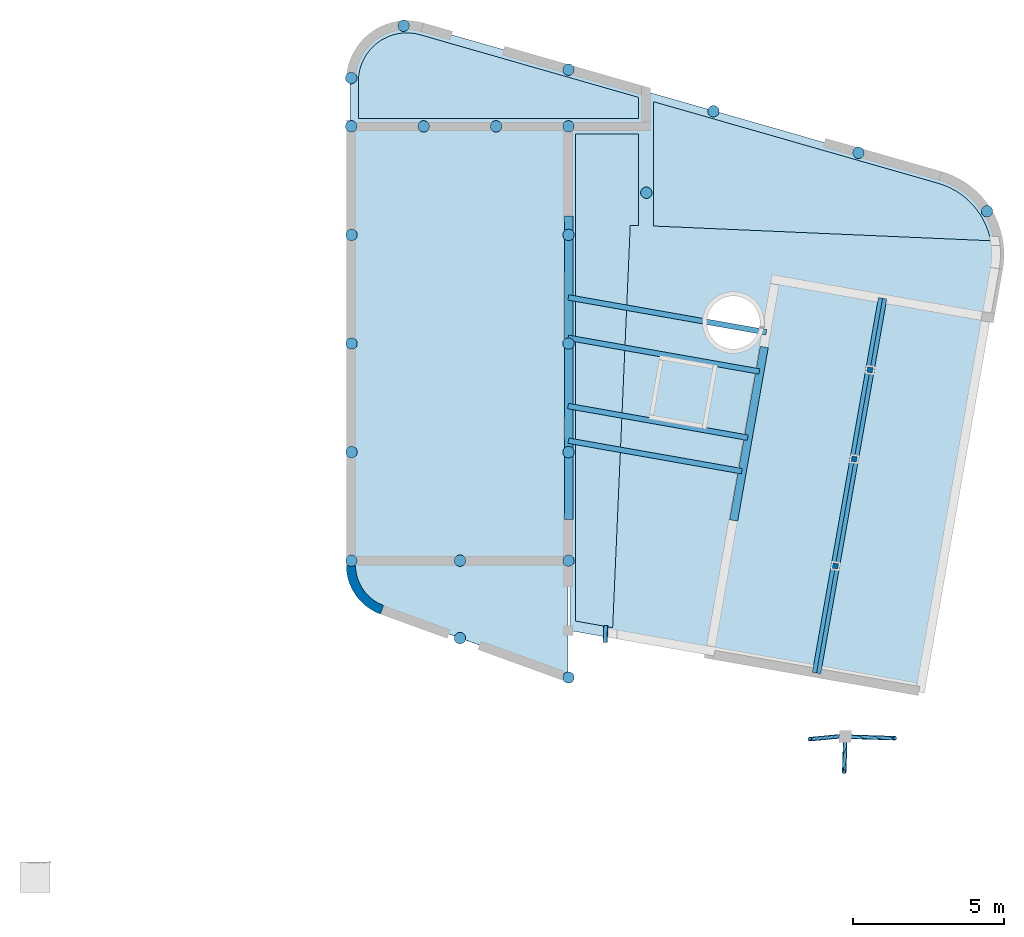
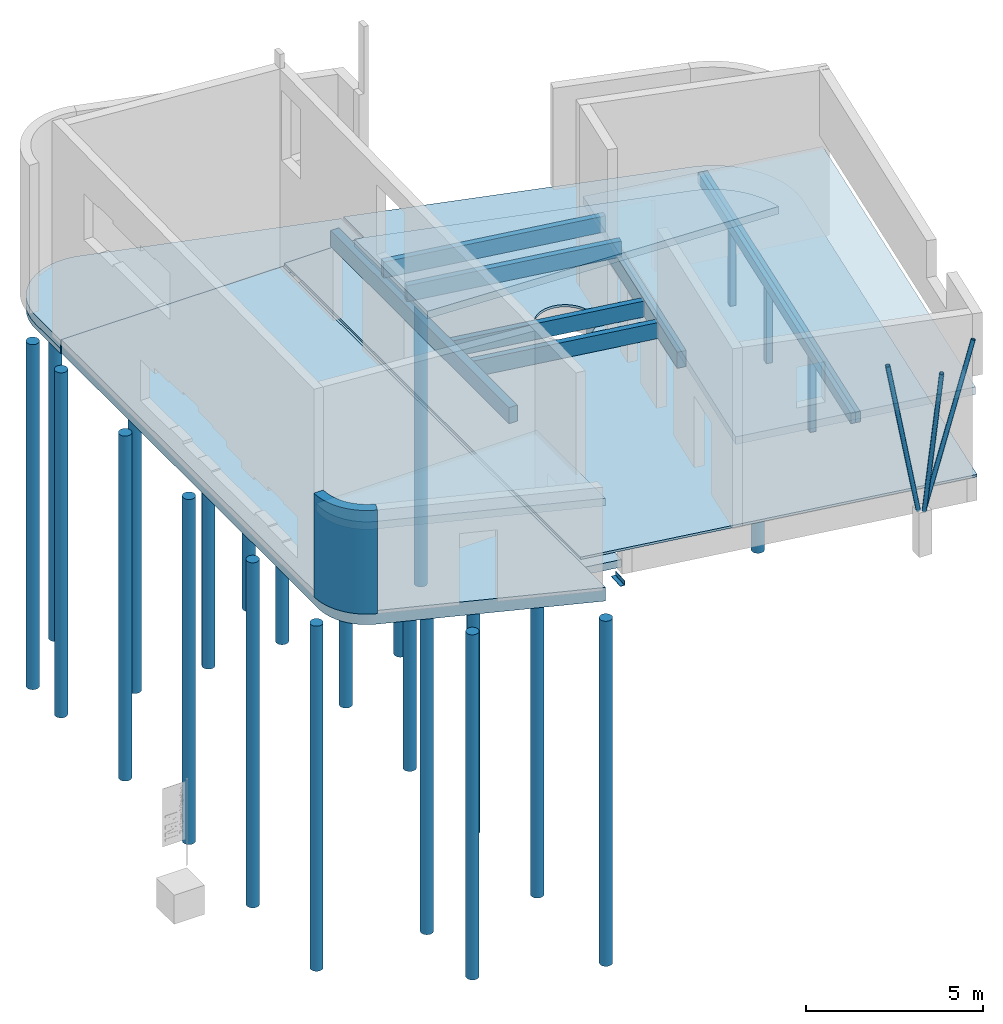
# One storey, part 1 of 3: 22 piles, 12 beams, 8 slabs, 3 columns, 1 wall, 1 opening.
"""IFC2X3 building model written with IfcOpenShell, lengths in millimetres."""

import ifcopenshell
import ifcopenshell.guid

model = None  # the IFC model being written
_history = None  # IfcOwnerHistory: only IFC2X3 demands one
_inside = {}  # id of a spatial element -> (the spatial element, [elements in it])
_under = {}  # id of a project, library or spatial element -> (it, [spatial elements below it])
_declared = {}  # id of a project -> (the project, [libraries it declares])
_typed = {}  # id of a type object -> (the type object, [elements of that type])
_made_of = {}  # id of a material, layer set ... -> (it, [elements and type objects made of it])


def new_model(schema):
    """Start an empty IFC model of exactly this schema.

    Asked for "IFC4X3", IfcOpenShell would pick the latest addendum, in which some entities
    have other attributes; the version numbers below select the first issue.
    IFC2X3 requires an IfcOwnerHistory on every rooted entity: one is made here for all.
    """
    global model, _history
    if schema == "IFC4X3":
        model = ifcopenshell.file(schema_version=(4, 3, 0, 0))
    else:
        model = ifcopenshell.file(schema=schema)
    _inside.clear()
    _under.clear()
    _declared.clear()
    _typed.clear()
    _made_of.clear()
    _history = None
    if model.schema == "IFC2X3":
        org = make("IfcOrganization", Name="unknown")
        user = make(
            "IfcPersonAndOrganization",
            ThePerson=make("IfcPerson", FamilyName="unknown"),
            TheOrganization=org,
        )
        app = make(
            "IfcApplication",
            ApplicationDeveloper=org,
            Version="unknown",
            ApplicationFullName="unknown",
            ApplicationIdentifier="unknown",
        )
        _history = make(
            "IfcOwnerHistory",
            OwningUser=user,
            OwningApplication=app,
            ChangeAction="ADDED",
            CreationDate=0,
        )
    return model


def make(cls, **values):
    """One entity of the class cls with the attributes given. An attribute that is None is left unset."""
    return model.create_entity(
        cls, **{name: value for name, value in values.items() if value is not None}
    )


def entity(cls, *values):
    """Any entity or typed value of the class cls, its attributes in the order of the schema. None: left unset."""
    e = model.create_entity(cls)
    for i, value in enumerate(values):
        if value is not None:
            e[i] = value
    return e


def rooted(cls, **values):
    """An entity with a GlobalId (a new one), such as an element, a storey or a relation."""
    return make(cls, GlobalId=ifcopenshell.guid.new(), OwnerHistory=_history, **values)


def si_unit(unit_type, name, prefix=None):
    """IfcSIUnit, for example si_unit("LENGTHUNIT", "METRE", prefix="MILLI")."""
    return make("IfcSIUnit", UnitType=unit_type, Prefix=prefix, Name=name)


def converted_unit(unit_type, name, factor, base, dimensions=None, offset=None):
    """IfcConversionBasedUnit, such as the inch: factor (a typed value) times the base unit."""
    return make(
        "IfcConversionBasedUnit"
        if offset is None
        else "IfcConversionBasedUnitWithOffset",
        ConversionOffset=offset,
        Dimensions=None
        if dimensions is None
        else entity("IfcDimensionalExponents", *dimensions),
        UnitType=unit_type,
        Name=name,
        ConversionFactor=make(
            "IfcMeasureWithUnit", ValueComponent=factor, UnitComponent=base
        ),
    )


def derived_unit(unit_type, elements):
    """IfcDerivedUnit: a product of units, each with its exponent."""
    return make(
        "IfcDerivedUnit",
        Elements=[
            make("IfcDerivedUnitElement", Unit=unit, Exponent=power)
            for unit, power in elements
        ],
        UnitType=unit_type,
    )


def assignment(units):
    """IfcUnitAssignment: the units of a project."""
    return None if units is None else make("IfcUnitAssignment", Units=units)


def point(xyz):
    """IfcCartesianPoint."""
    return None if xyz is None else make("IfcCartesianPoint", Coordinates=xyz)


def direction(xyz):
    """IfcDirection."""
    return None if xyz is None else make("IfcDirection", DirectionRatios=xyz)


def frame(location, z_axis=None, x_axis=None):
    """IfcAxis2Placement3D, a coordinate frame: its origin and axes. An axis left out is left unset."""
    return make(
        "IfcAxis2Placement3D",
        Location=point(location),
        Axis=direction(z_axis),
        RefDirection=direction(x_axis),
    )


def frame_2d(location, x_axis=None):
    """IfcAxis2Placement2D, a coordinate frame in the plane: its origin and x axis."""
    return make(
        "IfcAxis2Placement2D", Location=point(location), RefDirection=direction(x_axis)
    )


def origin():
    """The frame at (0, 0, 0) with its axes left unset."""
    return frame((0.0, 0.0, 0.0))


def origin_2d_with_axis():
    """The frame at (0, 0) in the plane with the x axis (1, 0) written out."""
    return frame_2d((0.0, 0.0), x_axis=(1.0, 0.0))


def place(relative_to, where):
    """IfcLocalPlacement: puts the frame where relative to a parent placement (None: the world)."""
    return make(
        "IfcLocalPlacement", PlacementRelTo=relative_to, RelativePlacement=where
    )


def context(
    kind, dimensions, precision=None, world=None, true_north=None, identifier=None
):
    """IfcGeometricRepresentationContext, for example the 3D "Model" context."""
    return make(
        "IfcGeometricRepresentationContext",
        ContextIdentifier=identifier,
        ContextType=kind,
        CoordinateSpaceDimension=dimensions,
        Precision=precision,
        WorldCoordinateSystem=world,
        TrueNorth=true_north,
    )


def subcontext(parent, identifier, kind, view, scale=None):
    """IfcGeometricRepresentationSubContext, for example "Body" below "Model"."""
    return make(
        "IfcGeometricRepresentationSubContext",
        ContextIdentifier=identifier,
        ContextType=kind,
        ParentContext=parent,
        TargetScale=scale,
        TargetView=view,
    )


def project(units=None, contexts=None):
    """IfcProject with its units and contexts."""
    return rooted(
        "IfcProject",
        Name="project",
        RepresentationContexts=contexts,
        UnitsInContext=assignment(units),
    )


def spatial(cls, under=None, at=None, **own):
    """A site, building, storey or space (cls), placed at a placement, below another one or the project."""
    s = rooted(cls, ObjectPlacement=at, **own)
    if under is not None:
        _under.setdefault(under.id(), (under, []))[1].append(s)
    return s


def polyline(points):
    """IfcPolyline through the points."""
    return make("IfcPolyline", Points=[point(p) for p in points])


def circle_curve(where, radius):
    """IfcCircle in the frame where."""
    return make("IfcCircle", Position=where, Radius=radius)


def parameter(value):
    """IfcParameterValue: where a trimmed curve begins or ends, as a parameter of its basis curve."""
    return model.create_entity("IfcParameterValue", value)


def trimmed(basis, trim1, trim2, sense, master):
    """IfcTrimmedCurve: the piece of a basis curve between two trims."""
    return make(
        "IfcTrimmedCurve",
        BasisCurve=basis,
        Trim1=trim1,
        Trim2=trim2,
        SenseAgreement=sense,
        MasterRepresentation=master,
    )


def segment(curve, same_sense, transition):
    """IfcCompositeCurveSegment."""
    return make(
        "IfcCompositeCurveSegment",
        Transition=transition,
        SameSense=same_sense,
        ParentCurve=curve,
    )


def composite_curve(segments, self_intersect=None):
    """IfcCompositeCurve: segments joined end to end."""
    return make("IfcCompositeCurve", Segments=segments, SelfIntersect=self_intersect)


def profile(cls, at=None, kind="AREA", **sizes):
    """A parametric profile (cls). Its sizes go by their IFC names, for example OverallWidth=200.0."""
    return make(cls, ProfileType=kind, Position=at, **sizes)


def rectangle(**sizes):
    """IfcRectangleProfileDef."""
    return profile("IfcRectangleProfileDef", **sizes)


def circle(**sizes):
    """IfcCircleProfileDef."""
    return profile("IfcCircleProfileDef", **sizes)


def hollow_circle(**sizes):
    """IfcCircleHollowProfileDef."""
    return profile("IfcCircleHollowProfileDef", **sizes)


def outline(outer, holes=None, kind="AREA"):
    """IfcArbitraryClosedProfileDef: a profile drawn as a closed curve; with holes, ...WithVoids."""
    if holes is None:
        return make("IfcArbitraryClosedProfileDef", ProfileType=kind, OuterCurve=outer)
    return make(
        "IfcArbitraryProfileDefWithVoids",
        ProfileType=kind,
        OuterCurve=outer,
        InnerCurves=holes,
    )


def extrude(swept, where, along, depth):
    """IfcExtrudedAreaSolid: the profile swept, set in the frame where, extruded along a direction by depth."""
    return make(
        "IfcExtrudedAreaSolid",
        SweptArea=swept,
        Position=where,
        ExtrudedDirection=direction(along),
        Depth=depth,
    )


def shape(context_of_items, identifier, shape_type, items):
    """IfcShapeRepresentation: the items that make up one representation, for example the "Body"."""
    return make(
        "IfcShapeRepresentation",
        ContextOfItems=context_of_items,
        RepresentationIdentifier=identifier,
        RepresentationType=shape_type,
        Items=items,
    )


def source(mapping_origin, context_of_items, identifier, shape_type, items):
    """IfcRepresentationMap: a shape defined once, which mapped items show again and again."""
    return make(
        "IfcRepresentationMap",
        MappingOrigin=mapping_origin,
        MappedRepresentation=shape(context_of_items, identifier, shape_type, items),
    )


def transform(
    local_origin,
    x_axis=None,
    y_axis=None,
    z_axis=None,
    scale=None,
    scale2=None,
    scale3=None,
    uniform=True,
):
    """IfcCartesianTransformationOperator3D, or its non-uniform kind. x_axis, y_axis, z_axis: its Axis1, 2, 3."""
    if uniform:
        return make(
            "IfcCartesianTransformationOperator3D",
            Axis1=direction(x_axis),
            Axis2=direction(y_axis),
            LocalOrigin=point(local_origin),
            Scale=scale,
            Axis3=direction(z_axis),
        )
    return make(
        "IfcCartesianTransformationOperator3DnonUniform",
        Axis1=direction(x_axis),
        Axis2=direction(y_axis),
        LocalOrigin=point(local_origin),
        Scale=scale,
        Axis3=direction(z_axis),
        Scale2=scale2,
        Scale3=scale3,
    )


def mapped(mapping_source, mapping_target):
    """IfcMappedItem: shows the shape of a source again, moved by a transform."""
    return make(
        "IfcMappedItem", MappingSource=mapping_source, MappingTarget=mapping_target
    )


def material(Name=None, Category=None):
    """IfcMaterial."""
    return make("IfcMaterial", Name=Name, Category=Category)


def material_list(materials):
    """IfcMaterialList."""
    return make("IfcMaterialList", Materials=materials)


def layer(
    of_material, thickness, ventilated=None, Name=None, Category=None, Priority=None
):
    """IfcMaterialLayer: one layer of a wall or slab, of a material (None: an air gap)."""
    return make(
        "IfcMaterialLayer",
        Material=of_material,
        LayerThickness=thickness,
        IsVentilated=ventilated,
        Name=Name,
        Category=Category,
        Priority=Priority,
    )


def layer_set(layers, Name=None):
    """IfcMaterialLayerSet."""
    return make("IfcMaterialLayerSet", MaterialLayers=layers, LayerSetName=Name)


def layer_usage(for_layer_set, set_direction, sense, offset, extent=None):
    """IfcMaterialLayerSetUsage: how a layer set lies in its element."""
    return make(
        "IfcMaterialLayerSetUsage",
        ForLayerSet=for_layer_set,
        LayerSetDirection=set_direction,
        DirectionSense=sense,
        OffsetFromReferenceLine=offset,
        ReferenceExtent=extent,
    )


def made_of(thing, what):
    """Note that an element or type object is made of a material, layer set ...; save() writes the relation."""
    if what is not None:
        _made_of.setdefault(what.id(), (what, []))[1].append(thing)
    return thing


def type_object(cls, material=None, **own):
    """A type object (cls), such as IfcWallType, which elements share."""
    return made_of(rooted(cls, **own), material)


def type_shapes(of_type, sources):
    """Give a type object the sources (RepresentationMaps) that its elements show as mapped items."""
    of_type.RepresentationMaps = sources


def element(
    cls,
    number,
    at=None,
    inside=None,
    cuts=None,
    type_object=None,
    material=None,
    context=None,
    identifier="Body",
    shape_type=None,
    held_by="IfcProductDefinitionShape",
    body=None,
    shapes=None,
    **own,
):
    """One element of the class cls, such as IfcWall. Its Tag is "e" and its number.

    at: its placement. inside: the storey or other place that contains it. cuts: it is an
    opening in that element (IfcRelVoidsElement). A single representation is given by context,
    identifier, shape_type and body (its items); several are given by shapes. held_by: the class
    of the entity that holds the representations. save() writes the other relations.
    """
    e = rooted(cls, Tag="e%d" % number, ObjectPlacement=at, **own)
    if body is not None:
        shapes = [shape(context, identifier, shape_type, body)]
    if shapes is not None:
        e.Representation = make(held_by, Representations=shapes)
    if inside is not None:
        _inside.setdefault(inside.id(), (inside, []))[1].append(e)
    if cuts is not None:
        rooted(
            "IfcRelVoidsElement", RelatingBuildingElement=cuts, RelatedOpeningElement=e
        )
    if type_object is not None:
        _typed.setdefault(type_object.id(), (type_object, []))[1].append(e)
    return made_of(e, material)


def aggregate(whole, parts):
    """IfcRelAggregates: a whole, such as a stair, and the parts it consists of."""
    return rooted("IfcRelAggregates", RelatingObject=whole, RelatedObjects=parts)


def save(model, path):
    """Write the relations noted so far, then the file.

    IfcRelAggregates (storeys below a building ...), IfcRelContainedInSpatialStructure (elements
    in a storey), IfcRelDefinesByType, IfcRelAssociatesMaterial and IfcRelDeclares: one each for
    every whole, place, type object, material and project.
    """
    for whole, parts in _under.values():
        aggregate(whole, parts)
    for where, things in _inside.values():
        rooted(
            "IfcRelContainedInSpatialStructure",
            RelatedElements=things,
            RelatingStructure=where,
        )
    for kind, things in _typed.values():
        rooted("IfcRelDefinesByType", RelatedObjects=things, RelatingType=kind)
    for what, things in _made_of.values():
        rooted("IfcRelAssociatesMaterial", RelatedObjects=things, RelatingMaterial=what)
    for by, libraries in _declared.values():
        rooted("IfcRelDeclares", RelatingContext=by, RelatedDefinitions=libraries)
    model.write(path)


model = new_model("IFC2X3")

# Units and contexts
model_context = context("Model", 3, precision=0.01, world=origin(), true_north=direction((6.12303176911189e-17, 1.0)))
context_of_model = context(None, 3, precision=0.01, world=origin(), true_north=direction((6.12303176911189e-17, 1.0)))
body_context = subcontext(model_context, "Body", "Model", "MODEL_VIEW")
ifc_project = project(units=[si_unit("LENGTHUNIT", "METRE", prefix="MILLI"), si_unit("AREAUNIT", "SQUARE_METRE"), si_unit("VOLUMEUNIT", "CUBIC_METRE"), converted_unit("PLANEANGLEUNIT", "DEGREE", entity("IfcRatioMeasure", 0.0174532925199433), si_unit("PLANEANGLEUNIT", "RADIAN"), dimensions=[0, 0, 0, 0, 0, 0, 0]), si_unit("MASSUNIT", "GRAM", prefix="KILO"), derived_unit("MASSDENSITYUNIT", [(si_unit("MASSUNIT", "GRAM", prefix="KILO"), 1), (si_unit("LENGTHUNIT", "METRE"), -3)]), derived_unit("MOMENTOFINERTIAUNIT", [(si_unit("LENGTHUNIT", "METRE"), 4)]), si_unit("TIMEUNIT", "SECOND"), si_unit("FREQUENCYUNIT", "HERTZ"), si_unit("THERMODYNAMICTEMPERATUREUNIT", "DEGREE_CELSIUS"), derived_unit("THERMALTRANSMITTANCEUNIT", [(si_unit("MASSUNIT", "GRAM", prefix="KILO"), 1), (si_unit("THERMODYNAMICTEMPERATUREUNIT", "KELVIN"), -1), (si_unit("TIMEUNIT", "SECOND"), -3)]), derived_unit("VOLUMETRICFLOWRATEUNIT", [(si_unit("LENGTHUNIT", "METRE"), 3), (si_unit("TIMEUNIT", "SECOND"), -1)]), si_unit("ELECTRICCURRENTUNIT", "AMPERE"), si_unit("ELECTRICVOLTAGEUNIT", "VOLT"), si_unit("POWERUNIT", "WATT"), si_unit("FORCEUNIT", "NEWTON", prefix="KILO"), si_unit("ILLUMINANCEUNIT", "LUX"), si_unit("LUMINOUSFLUXUNIT", "LUMEN"), si_unit("LUMINOUSINTENSITYUNIT", "CANDELA"), derived_unit("USERDEFINED", [(si_unit("MASSUNIT", "GRAM", prefix="KILO"), -1), (si_unit("LENGTHUNIT", "METRE"), -2), (si_unit("TIMEUNIT", "SECOND"), 3), (si_unit("LUMINOUSFLUXUNIT", "LUMEN"), 1)]), derived_unit("LINEARVELOCITYUNIT", [(si_unit("LENGTHUNIT", "METRE"), 1), (si_unit("TIMEUNIT", "SECOND"), -1)]), si_unit("PRESSUREUNIT", "PASCAL"), derived_unit("USERDEFINED", [(si_unit("LENGTHUNIT", "METRE"), -2), (si_unit("MASSUNIT", "GRAM", prefix="KILO"), 1), (si_unit("TIMEUNIT", "SECOND"), -2)]), derived_unit("LINEARFORCEUNIT", [(si_unit("MASSUNIT", "GRAM", prefix="KILO"), 1), (si_unit("LENGTHUNIT", "METRE"), 1), (si_unit("TIMEUNIT", "SECOND"), -2), (si_unit("LENGTHUNIT", "METRE"), -1)]), derived_unit("PLANARFORCEUNIT", [(si_unit("MASSUNIT", "GRAM", prefix="KILO"), 1), (si_unit("LENGTHUNIT", "METRE"), 1), (si_unit("TIMEUNIT", "SECOND"), -2), (si_unit("LENGTHUNIT", "METRE"), -2)])], contexts=[model_context, context_of_model])

# Site, building, storey
site_placement = place(None, origin())
site = spatial("IfcSite", under=ifc_project, at=site_placement, Name="Default", CompositionType="ELEMENT")
building_placement = place(site_placement, origin())
building = spatial("IfcBuilding", under=site, at=building_placement, Name="IFc", CompositionType="ELEMENT")
storey_placement = place(building_placement, frame((0.0, 0.0, -70.0)))
storey = spatial("IfcBuildingStorey", under=building, at=storey_placement, Name="00 begane grond b.k. ruwe vloer", CompositionType="ELEMENT", Elevation=-70.0)

# Piles
ifc_material_1 = material(Name="IMd_beton_IHWG")
shared_shape_1 = source(origin(), body_context, "Body", "SweptSolid", [
    extrude(circle(Radius=190.0, at=frame_2d((3.25983355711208e-29, -2.85239492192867e-13), x_axis=(1.0, 0.0))), frame((0.0, 0.0, -13000.0), z_axis=(0.0, 0.0, 1.0), x_axis=(-1.0, 0.0, 0.0)), (0.0, 0.0, 1.0), 11889.9999999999),
])
for number, where in (
    (1, (9984.0, 24397.0, 70.0)),
    (2, (17187.0, 24397.0, 70.0)),
    (3, (17187.0, 26276.860835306, 70.0)),
    (4, (17187.0, 9997.0, 70.0)),
    (5, (9993.0, 9997.0, 70.0)),
    (6, (13590.0, 9997.0, 70.0)),
    (7, (17187.0, 6122.47168214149, 70.0)),
    (8, (19768.6696056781, 22197.0, 70.0)),
    (9, (31063.5922916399, 21580.8594844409, 70.0)),
    (10, (21993.3084796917, 24898.6740562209, 70.0)),
    (11, (26799.6169593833, 23520.4872771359, 70.0)),
    (12, (12385.0, 24397.0, 70.0)),
    (13, (14786.0, 24397.0, 70.0)),
    (14, (13590.0, 7428.04132245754, 70.0)),
    (15, (9984.0, 25998.7181915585, 70.0)),
    (16, (11719.4566353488, 27734.1748269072, 70.0)),
    (17, (17187.0, 13597.0, 70.0)),
    (18, (9993.0, 13597.0, 70.0)),
    (19, (17187.0, 17197.0, 70.0)),
    (20, (9993.0, 17197.0, 70.0)),
    (21, (17187.0, 20797.0, 70.0)),
    (22, (9993.0, 20797.0, 70.0)),
):
    element("IfcPile", number, at=place(storey_placement, frame(where)), inside=storey, material=ifc_material_1, Name="NLRS_17_SFO_TLB_funderingspaal rond_gen_ISR:Type 01_ø380/450_Fd=900kN", ObjectType="NLRS_17_SFO_TLB_funderingspaal rond_gen_ISR:Type 01_ø380/450_Fd=900kN", PredefinedType="NOTDEFINED", context=body_context, shape_type="MappedRepresentation", body=[
        mapped(shared_shape_1, transform((0.0, 0.0, 0.0), scale=1.0)),
    ])

# Columns
ifc_material_2 = material(Name="ISR_Hout")
ifc_material_3 = material(Name="<Unnamed>")
ifc_material_list = material_list([ifc_material_3, ifc_material_2])
column_type = type_object("IfcColumnType", Name="NLRS_28_SC_TLB_kolom vierkant hout_generiek_ISR:180x180 (GL)", PredefinedType="COLUMN", material=ifc_material_list)
shared_shape_2 = source(origin(), body_context, "Body", "SweptSolid", [
    extrude(rectangle(XDim=180.0, YDim=180.0, at=origin_2d_with_axis()), frame((0.0, 0.0, 0.0), z_axis=(0.0, 0.0, 1.0), x_axis=(0.0, -1.0, 0.0)), (0.0, 0.0, 1.0), 2632.00000000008),
])
type_shapes(column_type, [shared_shape_2])
for number, where, z_axis, x_axis, name in (
    (23, (26036.8769212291, 9820.45763454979, 70.0), (0.0, 0.0, 1.0), (0.984807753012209, -0.173648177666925, 0.0), "NLRS_28_SC_TLB_kolom vierkant hout_generiek_ISR:180x180 (GL)"),
    (24, (26662.0103603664, 13365.7655427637, 70.0), (0.0, 0.0, 1.0), (0.984807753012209, -0.173648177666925, 0.0), "NLRS_28_SC_TLB_kolom vierkant hout_generiek_ISR:180x180 (GL)"),
    (25, (27182.9548933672, 16320.1888018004, 70.0), (0.0, 0.0, 1.0), (0.984807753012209, -0.173648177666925, 0.0), "NLRS_28_SC_TLB_kolom vierkant hout_generiek_ISR:180x180 (GL)"),
):
    element("IfcColumn", number, at=place(storey_placement, frame(where, z_axis=z_axis, x_axis=x_axis)), inside=storey, type_object=column_type, material=ifc_material_2, Name=name, ObjectType="NLRS_28_SC_TLB_kolom vierkant hout_generiek_ISR:180x180 (GL)", context=body_context, shape_type="MappedRepresentation", body=[
        mapped(shared_shape_2, transform((0.0, 0.0, 0.0), scale=1.0)),
    ])

# Beams
ifc_material_4 = material(Name="IMd_hout")
beam_type_1 = type_object("IfcBeamType", Name="NLRS_28_SF_LIB_balk hout gelamineerd_generiek_ISR:HB 180x550", PredefinedType="NOTDEFINED")
beam_1_placement = place(storey_placement, frame((17178.0, 15123.5488943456, 3070.0), z_axis=(0.0, 0.0, 1.0), x_axis=(0.984807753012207, -0.173648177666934, 0.0)))
element("IfcBeam", 26, at=beam_1_placement, inside=storey, type_object=beam_type_1, material=ifc_material_4, Name="NLRS_28_SF_LIB_balk hout gelamineerd_generiek_ISR:HB 180x550", ObjectType="NLRS_28_SF_LIB_balk hout gelamineerd_generiek_ISR:HB 180x550", context=body_context, shape_type="SweptSolid", body=[
    extrude(rectangle(XDim=550.0, YDim=179.999999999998, at=frame_2d((2.55795384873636e-13, 0.0), x_axis=(1.0, 0.0))), frame((-6.7245769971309, 0.0, -295.0), z_axis=(1.0, 0.0, 0.0), x_axis=(0.0, 0.0, -1.0)), (0.0, 0.0, 1.0), 6048.88738526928),
])
beam_2_placement = place(storey_placement, frame((17178.0, 13976.9142265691, 3070.0), z_axis=(0.0, 0.0, 1.0), x_axis=(0.984807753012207, -0.173648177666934, 0.0)))
element("IfcBeam", 27, at=beam_2_placement, inside=storey, type_object=beam_type_1, material=ifc_material_4, Name="NLRS_28_SF_LIB_balk hout gelamineerd_generiek_ISR:HB 180x550", ObjectType="NLRS_28_SF_LIB_balk hout gelamineerd_generiek_ISR:HB 180x550", context=body_context, shape_type="SweptSolid", body=[
    extrude(rectangle(XDim=550.0, YDim=179.999999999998, at=frame_2d((2.55795384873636e-13, 0.0), x_axis=(1.0, 0.0))), frame((7.133167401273, 0.0, -295.0), z_axis=(1.0, 0.0, 0.0), x_axis=(0.0, 0.0, -1.0)), (0.0, 0.0, 1.0), 5835.91862036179),
])
beam_3_placement = place(storey_placement, frame((17178.0, 18726.0679760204, 3070.0), z_axis=(0.0, 0.0, 1.0), x_axis=(0.984807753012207, -0.173648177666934, 0.0)))
element("IfcBeam", 28, at=beam_3_placement, inside=storey, type_object=beam_type_1, material=ifc_material_4, Name="NLRS_28_SF_LIB_balk hout gelamineerd_generiek_ISR:HB 180x550", ObjectType="NLRS_28_SF_LIB_balk hout gelamineerd_generiek_ISR:HB 180x550", context=body_context, shape_type="SweptSolid", body=[
    extrude(rectangle(XDim=550.0, YDim=179.999999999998, at=frame_2d((2.55795384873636e-13, 0.0), x_axis=(1.0, 0.0))), frame((4.22572315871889, 0.0, 275.0), z_axis=(1.0, 0.0, 0.0), x_axis=(0.0, 0.0, -1.0)), (0.0, 0.0, 1.0), 6666.50795865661),
])
beam_4_placement = place(storey_placement, frame((17178.0, 17386.6706193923, 3070.0), z_axis=(0.0, 0.0, 1.0), x_axis=(0.984807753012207, -0.173648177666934, 0.0)))
element("IfcBeam", 29, at=beam_4_placement, inside=storey, type_object=beam_type_1, material=ifc_material_4, Name="NLRS_28_SF_LIB_balk hout gelamineerd_generiek_ISR:HB 180x550", ObjectType="NLRS_28_SF_LIB_balk hout gelamineerd_generiek_ISR:HB 180x550", context=body_context, shape_type="SweptSolid", body=[
    extrude(rectangle(XDim=550.0, YDim=180.0, at=frame_2d((2.55795384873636e-13, -1.06581410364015e-12), x_axis=(1.0, 0.0))), frame((-3.02019640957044, 0.0, 275.0), z_axis=(1.0, 0.0, 0.0), x_axis=(0.0, 0.0, -1.0)), (0.0, 0.0, 1.0), 6438.16996807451),
])
beam_type_2 = type_object("IfcBeamType", Name="NLRS_28_SF_LIB_balk hout gelamineerd_generiek_ISR:HB 140x350", PredefinedType="NOTDEFINED")
beam_5_placement = place(storey_placement, frame((27531.2949215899, 18698.8372047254, 3070.0), z_axis=(0.0, 0.0, 1.0), x_axis=(-0.173648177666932, -0.984807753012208, 0.0)))
element("IfcBeam", 30, at=beam_5_placement, inside=storey, type_object=beam_type_2, material=ifc_material_4, Name="NLRS_28_SF_LIB_balk hout gelamineerd_generiek_ISR:HB 140x350", ObjectType="NLRS_28_SF_LIB_balk hout gelamineerd_generiek_ISR:HB 140x350", context=body_context, shape_type="SweptSolid", body=[
    extrude(rectangle(XDim=350.0, YDim=140.000000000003, at=frame_2d((2.70006239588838e-13, -2.32347474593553e-12), x_axis=(1.0, 0.0))), frame((-11.096532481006, 0.0, -193.0), z_axis=(1.0, 0.0, 0.0), x_axis=(0.0, 0.0, -1.0)), (0.0, 0.0, 1.0), 12617.096532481),
])
beam_6_placement = place(storey_placement, frame((27669.1680070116, 18674.526459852, 3070.0), z_axis=(0.0, 0.0, 1.0), x_axis=(-0.173648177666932, -0.984807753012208, 0.0)))
element("IfcBeam", 31, at=beam_6_placement, inside=storey, type_object=beam_type_2, material=ifc_material_4, Name="NLRS_28_SF_LIB_balk hout gelamineerd_generiek_ISR:HB 140x350", ObjectType="NLRS_28_SF_LIB_balk hout gelamineerd_generiek_ISR:HB 140x350", context=body_context, shape_type="SweptSolid", body=[
    extrude(rectangle(XDim=350.0, YDim=140.000000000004, at=frame_2d((2.70006239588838e-13, -2.1387336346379e-12), x_axis=(1.0, 0.0))), frame((-11.0965324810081, 0.0, -193.0), z_axis=(1.0, 0.0, 0.0), x_axis=(0.0, 0.0, -1.0)), (0.0, 0.0, 1.0), 12617.096532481),
])
ifc_material_5 = material(Name="IMd_staal")
beam_type_3 = type_object("IfcBeamType", Name="NLRS_28_SF_LIB_balk hoeklijn_generiek_ISR:L150x150x15", PredefinedType="NOTDEFINED")
beam_7_placement = place(storey_placement, frame((18491.6024465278, 7892.52318823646, 0.0), z_axis=(0.0, 0.0, 1.0), x_axis=(-0.0436724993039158, -0.999045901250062, 0.0)))
element("IfcBeam", 32, at=beam_7_placement, inside=storey, type_object=beam_type_3, material=ifc_material_5, Name="NLRS_28_SF_LIB_balk hoeklijn_generiek_ISR:L150x150x15", ObjectType="NLRS_28_SF_LIB_balk hoeklijn_generiek_ISR:L150x150x15", context=body_context, shape_type="SweptSolid", body=[
    extrude(outline(composite_curve([segment(polyline([(49.6666666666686, -93.3333333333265), (56.6666666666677, -93.3333333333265)]), True, "CONTINUOUS"), segment(polyline([(56.6666666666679, -93.3333333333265), (56.6666666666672, 56.6666666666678)]), True, "CONTINUOUS"), segment(polyline([(56.6666666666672, 56.6666666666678), (-93.3333333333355, 56.6666666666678)]), True, "CONTINUOUS"), segment(polyline([(-93.3333333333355, 56.6666666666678), (-93.3333333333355, 49.666666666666)]), True, "CONTINUOUS"), segment(trimmed(circle_curve(frame_2d((-85.333333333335, 49.666666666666), x_axis=(-1.0, 0.0)), 8.00000000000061), [parameter(0.0)], [parameter(89.9999999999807)], True, "PARAMETER"), True, "CONTINUOUS"), segment(polyline([(-85.3333333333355, 41.666666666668), (25.6666666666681, 41.666666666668)]), True, "CONTINUOUS"), segment(trimmed(circle_curve(frame_2d((25.6666666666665, 25.6666666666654), x_axis=(0.0, 1.0)), 16.0000000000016), [parameter(270.000000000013)], [parameter(0.0)], True, "PARAMETER"), False, "CONTINUOUS"), segment(polyline([(41.6666666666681, 25.6666666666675), (41.6666666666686, -85.3333333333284)]), True, "CONTINUOUS"), segment(trimmed(circle_curve(frame_2d((49.6666666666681, -85.3333333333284), x_axis=(-1.0, 0.0)), 7.99999999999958), [parameter(0.0)], [parameter(90.000000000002)], True, "PARAMETER"), True, "CONTINUOUS")], self_intersect=False)), frame((52.2338607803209, -41.6666666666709, -1028.33333333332), z_axis=(1.0, 0.0, 0.0), x_axis=(0.0, 0.0, -1.0)), (0.0, 0.0, 1.0), 561.317119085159),
])
beam_type_4 = type_object("IfcBeamType", Name="NLRS_28_SF_LIB_balk hout gelamineerd_generiek_ISR:HB 271x550", PredefinedType="NOTDEFINED")
beam_8_placement = place(storey_placement, frame((17195.5000000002, 21908.5704000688, 3070.0), z_axis=(0.0, 0.0, 1.0), x_axis=(0.0, -1.0, 0.0)))
element("IfcBeam", 33, at=beam_8_placement, inside=storey, type_object=beam_type_4, material=ifc_material_4, Name="NLRS_28_SF_LIB_balk hout gelamineerd_generiek_ISR:HB 271x550", ObjectType="NLRS_28_SF_LIB_balk hout gelamineerd_generiek_ISR:HB 271x550", context=body_context, shape_type="SweptSolid", body=[
    extrude(rectangle(XDim=550.0, YDim=271.000000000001, at=frame_2d((-2.55795384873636e-13, -1.08002495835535e-12), x_axis=(1.0, 0.0))), frame((475.070400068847, 0.0, -293.0), z_axis=(1.0, 0.0, 0.0), x_axis=(0.0, 0.0, -1.0)), (0.0, 0.0, 1.0), 10067.0000003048),
])
beam_9_placement = place(storey_placement, frame((23982.4193626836, 18817.1214009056, 3070.0), z_axis=(0.0, 0.0, 1.0), x_axis=(-0.173648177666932, -0.984807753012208, 0.0)))
element("IfcBeam", 34, at=beam_9_placement, inside=storey, type_object=beam_type_4, material=ifc_material_4, Name="NLRS_28_SF_LIB_balk hout gelamineerd_generiek_ISR:HB 271x550", ObjectType="NLRS_28_SF_LIB_balk hout gelamineerd_generiek_ISR:HB 271x550", context=body_context, shape_type="SweptSolid", body=[
    extrude(rectangle(XDim=550.0, YDim=270.999999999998, at=frame_2d((-2.55795384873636e-13, 1.84741111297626e-13), x_axis=(1.0, 0.0))), frame((1761.23141961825, 0.0, -293.0), z_axis=(1.0, 0.0, 0.0), x_axis=(0.0, 0.0, -1.0)), (0.0, 0.0, 1.0), 5842.00000026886),
])
beam_type_5 = type_object("IfcBeamType", Name="NLRS_28_SF_LIB_balk buis_generiek_ISR:ø139.7x8", PredefinedType="NOTDEFINED")
beam_10_placement = place(storey_placement, frame((26365.4879994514, 4162.8592157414, 678.499444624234), z_axis=(0.959358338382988, 0.00263696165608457, -0.282178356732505), x_axis=(0.282190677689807, -0.00896482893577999, 0.95931645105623)))
element("IfcBeam", 35, at=beam_10_placement, inside=storey, type_object=beam_type_5, material=ifc_material_5, Name="NLRS_28_SF_LIB_balk buis_generiek_ISR:ø139.7x8", ObjectType="NLRS_28_SF_LIB_balk buis_generiek_ISR:ø139.7x8", context=body_context, shape_type="SweptSolid", body=[
    extrude(hollow_circle(Radius=69.8500000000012, WallThickness=8.00000000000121, at=origin_2d_with_axis()), frame((0.0, 2.5227370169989, 69.8044289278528), z_axis=(1.0, 0.0, 0.0), x_axis=(0.0, -0.999347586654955, 0.0361164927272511)), (0.0, 0.0, 1.0), 5552.16664035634),
])
beam_11_placement = place(storey_placement, frame((26312.9619775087, 4173.4756224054, 676.053461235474), z_axis=(0.981553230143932, -0.00341636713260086, 0.191158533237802), x_axis=(-0.191189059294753, -0.0175394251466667, 0.981396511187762)))
element("IfcBeam", 36, at=beam_11_placement, inside=storey, type_object=beam_type_5, material=ifc_material_5, Name="NLRS_28_SF_LIB_balk buis_generiek_ISR:ø139.7x8", ObjectType="NLRS_28_SF_LIB_balk buis_generiek_ISR:ø139.7x8", context=body_context, shape_type="SweptSolid", body=[
    extrude(hollow_circle(Radius=69.8500000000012, WallThickness=8.00000000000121, at=origin_2d_with_axis()), frame((0.0, -2.15490487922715, -69.8167521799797), z_axis=(1.0, 0.0, 0.0), x_axis=(0.0, 0.0308504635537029, 0.999524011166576)), (0.0, 0.0, 1.0), 5520.0),
])
beam_12_placement = place(storey_placement, frame((26364.5578838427, 4112.72055564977, 702.677431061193), z_axis=(0.999981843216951, -0.00114927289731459, 0.00591543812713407), x_axis=(-0.00602604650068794, -0.190714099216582, 0.981627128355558)))
element("IfcBeam", 37, at=beam_12_placement, inside=storey, type_object=beam_type_5, material=ifc_material_5, Name="NLRS_28_SF_LIB_balk buis_generiek_ISR:ø139.7x8", ObjectType="NLRS_28_SF_LIB_balk buis_generiek_ISR:ø139.7x8", context=body_context, shape_type="SweptSolid", body=[
    extrude(hollow_circle(Radius=69.8500000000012, WallThickness=8.00000000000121, at=frame_2d((1.80148737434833e-14, -5.31190497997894e-13), x_axis=(1.0, 0.0))), frame((0.0, 69.8125889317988, -2.28580984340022), z_axis=(1.0, 0.0, 0.0), x_axis=(0.0, 0.0327245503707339, 0.999464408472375)), (0.0, 0.0, 1.0), 5481.06397572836),
])

# Slabs
ifc_material_6 = material(Name="IMd_underlayment")
ifc_layer_1 = layer(ifc_material_6, 18.0)
ifc_layer_2 = layer(ifc_material_4, 246.0)
ifc_layer_set_1 = layer_set([ifc_layer_1, ifc_layer_2], Name="Floor:NLRS_23_FL Houten_balklaag_71x246+underlayment_d=18")
ifc_layer_usage_1 = layer_usage(ifc_layer_set_1, "AXIS3", "POSITIVE", 0.0)
slab_type_1 = type_object("IfcSlabType", Name="Floor:NLRS_23_FL Houten_balklaag_71x246+underlayment_d=18", PredefinedType="FLOOR", material=ifc_layer_set_1)
slab_1_placement = place(storey_placement, origin())
element("IfcSlab", 38, at=slab_1_placement, inside=storey, type_object=slab_type_1, material=ifc_layer_usage_1, Name="Floor:NLRS_23_FL Houten_balklaag_71x246+underlayment_d=18", ObjectType="Floor:NLRS_23_FL Houten_balklaag_71x246+underlayment_d=18", PredefinedType="FLOOR", context=body_context, shape_type="SweptSolid", body=[
    extrude(rectangle(XDim=12600.0, YDim=7200.0, at=origin_2d_with_axis()), frame((26505.7270004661, 12479.4385650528, 3070.0), z_axis=(0.0, 0.0, -1.0), x_axis=(-0.173648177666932, -0.984807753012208, 0.0)), (0.0, 0.0, 1.0), 264.0),
])
ifc_layer_usage_2 = layer_usage(ifc_layer_set_1, "AXIS3", "POSITIVE", 0.0)
slab_type_2 = type_object("IfcSlabType", Name="Floor:NLRS_23_FL Houten_balklaag_71x246+underlayment_d=18", PredefinedType="FLOOR", material=ifc_layer_set_1)
slab_2_placement = place(storey_placement, origin())
element("IfcSlab", 39, at=slab_2_placement, inside=storey, type_object=slab_type_2, material=ifc_layer_usage_2, Name="Floor:NLRS_23_FL Houten_balklaag_71x246+underlayment_d=18", ObjectType="Floor:NLRS_23_FL Houten_balklaag_71x246+underlayment_d=18", PredefinedType="FLOOR", context=body_context, shape_type="SweptSolid", body=[
    extrude(outline(composite_curve([segment(polyline([(973.887794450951, -3081.93892615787), (1130.07446960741, -3081.93892615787)]), True, "CONTINUOUS"), segment(polyline([(1130.07446960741, -3081.93892615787), (1130.07446960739, 4118.06107384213)]), True, "CONTINUOUS"), segment(polyline([(1130.07446960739, 4118.06107384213), (-2743.56181453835, 4118.06107384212)]), True, "CONTINUOUS"), segment(polyline([(-2743.56181453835, 4118.06107384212), (-490.474919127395, -2072.24429536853)]), True, "CONTINUOUS"), segment(trimmed(circle_curve(frame_2d((977.706568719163, -1509.66873235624), x_axis=(-0.933794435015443, -0.357809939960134)), 1572.27483136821), [parameter(0.0)], [parameter(68.8950809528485)], True, "PARAMETER"), True, "CONTINUOUS")], self_intersect=False)), frame((13056.938926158, 8869.92553039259, 3070.0), z_axis=(0.0, 0.0, -1.0), x_axis=(0.0, 1.0, 0.0)), (0.0, 0.0, 1.0), 264.0),
])
ifc_material_7 = material(Name="IMd_beton_druklaag")
ifc_layer_3 = layer(ifc_material_7, 70.0)
ifc_material_8 = material(Name="IMd_beton_prefab_kanaalplaat")
ifc_layer_4 = layer(ifc_material_8, 260.0)
ifc_material_9 = material(Name="IMd_isolatie")
ifc_layer_5 = layer(ifc_material_9, 140.0)
ifc_layer_set_2 = layer_set([ifc_layer_3, ifc_layer_4, ifc_layer_5], Name="Floor:NLRS_23_FL Kanaalplaat_d=260_druklaag_d=70_geisoleerd_rc4")
ifc_layer_usage_3 = layer_usage(ifc_layer_set_2, "AXIS3", "POSITIVE", 0.0)
slab_type_3 = type_object("IfcSlabType", Name="Floor:NLRS_23_FL Kanaalplaat_d=260_druklaag_d=70_geisoleerd_rc4", PredefinedType="FLOOR", material=ifc_layer_set_2)
slab_3_placement = place(storey_placement, origin())
element("IfcSlab", 40, at=slab_3_placement, inside=storey, type_object=slab_type_3, material=ifc_layer_usage_3, Name="Floor:NLRS_23_FL Kanaalplaat_d=260_druklaag_d=70_geisoleerd_rc4", ObjectType="Floor:NLRS_23_FL Kanaalplaat_d=260_druklaag_d=70_geisoleerd_rc4", PredefinedType="FLOOR", context=body_context, shape_type="SweptSolid", body=[
    extrude(outline(composite_curve([segment(polyline([(-4856.45412573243, -3087.92121397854), (9790.16159404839, -3087.92121397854)]), True, "CONTINUOUS"), segment(polyline([(9790.16159404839, -3087.92121397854), (9790.16159404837, 4115.07878602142)]), True, "CONTINUOUS"), segment(polyline([(9790.16159404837, 4115.07878602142), (-8484.36672381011, 4115.07878602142)]), True, "CONTINUOUS"), segment(polyline([(-8484.36672381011, 4115.07878602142), (-6239.50233855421, -2054.31514408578)]), True, "CONTINUOUS"), segment(trimmed(circle_curve(frame_2d((-4759.20667885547, -1515.67827898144), x_axis=(-0.939722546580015, -0.341937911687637)), 1575.2475718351), [parameter(0.0)], [parameter(66.4656250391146)], True, "PARAMETER"), True, "CONTINUOUS")], self_intersect=False)), frame((13062.9212139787, 14606.8384059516, 0.0), z_axis=(0.0, 0.0, -1.0), x_axis=(0.0, 1.0, 0.0)), (0.0, 0.0, 1.0), 470.0),
])

# Slab, opening
ifc_layer_6 = layer(ifc_material_1, 80.0)
ifc_layer_set_3 = layer_set([ifc_layer_6], Name="Floor:NLRS_23_FL Beton_ihwg_d=80")
ifc_layer_usage_4 = layer_usage(ifc_layer_set_3, "AXIS3", "POSITIVE", 0.0)
slab_type_4 = type_object("IfcSlabType", Name="Floor:NLRS_23_FL Beton_ihwg_d=80", PredefinedType="FLOOR", material=ifc_layer_set_3)
slab_4_placement = place(storey_placement, frame((17257.1152941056, 5605.9947554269, -10.0)))
slab_4 = element("IfcSlab", 41, at=slab_4_placement, inside=storey, type_object=slab_type_4, material=ifc_layer_usage_4, Name="Floor:NLRS_23_FL Beton_ihwg_d=80", ObjectType="Floor:NLRS_23_FL Beton_ihwg_d=80", PredefinedType="FLOOR", context=body_context, shape_type="SweptSolid", body=[
    extrude(outline(composite_curve([segment(polyline([(7124.18717939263, -7895.66640337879), (7127.62502700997, 8810.43220719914)]), True, "CONTINUOUS"), segment(polyline([(7127.62502700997, 8810.43220719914), (4545.95547599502, 8810.96347345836)]), True, "CONTINUOUS"), segment(polyline([(4545.95547599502, 8810.96347345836), (4546.19265401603, 9963.52165759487)]), True, "CONTINUOUS"), segment(polyline([(4546.19265401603, 9963.52165759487), (-5162.03672675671, 7181.89361416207)]), True, "CONTINUOUS"), segment(trimmed(circle_curve(frame_2d((-4415.87101907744, 4577.6820757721), x_axis=(-0.999999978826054, 0.000205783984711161)), 2709.0), [parameter(286.000000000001)], [parameter(10.009898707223)], True, "PARAMETER"), True, "CONTINUOUS"), segment(polyline([(-7083.73075307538, 4107.35725215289), (-4603.13627288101, -9963.50993950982)]), True, "CONTINUOUS"), segment(polyline([(-4603.13627288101, -9963.50993950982), (7124.18717939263, -7895.66640337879)]), True, "CONTINUOUS")], self_intersect=False)), frame((7127.62502700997, 9963.50993950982, 80.0), z_axis=(0.0, 0.0, -1.0), x_axis=(-1.0, 0.0, 0.0)), (0.0, 0.0, 1.0), 80.0),
])
opening_placement = place(slab_4_placement, frame((4860.83737280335, 11936.2101993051, 80.0)))
element("IfcOpeningElement", 42, at=opening_placement, cuts=slab_4, Name="Floor:NLRS_23_FL Beton_ihwg_d=80:2", ObjectType="Opening", context=body_context, shape_type="SweptSolid", body=[
    extrude(circle(Radius=879.999999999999, at=frame_2d((536.412543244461, -351.346987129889), x_axis=(1.0, 0.0))), frame((0.0, 0.0, 0.0), z_axis=(0.0, 0.0, -1.0), x_axis=(0.999999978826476, 0.000205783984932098, 0.0)), (0.0, 0.0, 1.0), 80.0),
])

# Slabs
ifc_layer_7 = layer(ifc_material_1, 300.0)
ifc_layer_set_4 = layer_set([ifc_layer_7], Name="Floor:NLRS_23_FL Beton_ihwg_d=300")
ifc_layer_usage_5 = layer_usage(ifc_layer_set_4, "AXIS3", "POSITIVE", 0.0)
slab_type_5 = type_object("IfcSlabType", Name="Floor:NLRS_23_FL Beton_ihwg_d=300", PredefinedType="FLOOR", material=ifc_layer_set_4)
slab_5_placement = place(storey_placement, origin())
element("IfcSlab", 43, at=slab_5_placement, inside=storey, type_object=slab_type_5, material=ifc_layer_usage_5, Name="Floor:NLRS_23_FL Beton_ihwg_d=300", ObjectType="Floor:NLRS_23_FL Beton_ihwg_d=300", PredefinedType="FLOOR", context=body_context, shape_type="SweptSolid", body=[
    extrude(outline(composite_curve([segment(polyline([(-1184.22135581, -4451.30805211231), (212.503037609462, -4451.30805211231)]), True, "CONTINUOUS"), segment(trimmed(circle_curve(frame_2d((212.503037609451, -2459.55652051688), x_axis=(0.0, -1.0)), 1991.75153159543), [parameter(0.0)], [parameter(106.000691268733)], True, "PARAMETER"), True, "CONTINUOUS"), segment(polyline([(2127.09086896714, -1910.53229552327), (28.8488050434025, 5406.57419987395)]), True, "CONTINUOUS"), segment(polyline([(28.8488050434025, 5406.57419987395), (-1184.22135581, 5406.57419987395)]), True, "CONTINUOUS"), segment(polyline([(-1184.22135581, 5406.57419987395), (-1184.22135581, -4451.30805211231)]), True, "CONTINUOUS")], self_intersect=False)), frame((14388.0925198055, 25546.22135581, 0.0), z_axis=(0.0, 0.0, -1.0), x_axis=(0.0, 1.0, 0.0)), (0.0, 0.0, 1.0), 300.0),
])
ifc_layer_8 = layer(ifc_material_1, 170.0)
ifc_layer_set_5 = layer_set([ifc_layer_8], Name="Floor:NLRS_23_FL Beton_ihwg_d=170")
ifc_layer_usage_6 = layer_usage(ifc_layer_set_5, "AXIS3", "POSITIVE", 0.0)
slab_type_6 = type_object("IfcSlabType", Name="Floor:NLRS_23_FL Beton_ihwg_d=170", PredefinedType="FLOOR", material=ifc_layer_set_5)
slab_6_placement = place(storey_placement, origin())
element("IfcSlab", 44, at=slab_6_placement, inside=storey, type_object=slab_type_6, material=ifc_layer_usage_6, Name="Floor:NLRS_23_FL Beton_ihwg_d=170", ObjectType="Floor:NLRS_23_FL Beton_ihwg_d=170", PredefinedType="FLOOR", context=body_context, shape_type="SweptSolid", body=[
    extrude(outline(composite_curve([segment(polyline([(-1184.22135581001, -5406.57419987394), (28.8488050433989, -5406.57419987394)]), True, "CONTINUOUS"), segment(polyline([(28.8488050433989, -5406.57419987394), (2127.09086896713, 1910.53229552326)]), True, "CONTINUOUS"), segment(trimmed(circle_curve(frame_2d((212.503037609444, 2459.55652051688), x_axis=(0.0, -1.0)), 1991.75153159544), [parameter(73.9993087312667)], [parameter(180.0)], True, "PARAMETER"), True, "CONTINUOUS"), segment(polyline([(212.503037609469, 4451.30805211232), (-1184.22135581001, 4451.30805211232)]), True, "CONTINUOUS"), segment(polyline([(-1184.22135581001, 4451.30805211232), (-1184.22135581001, -5406.57419987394)]), True, "CONTINUOUS")], self_intersect=False), holes=[composite_curve([segment(polyline([(-188.172444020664, -5121.57708587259), (-896.221355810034, -5121.57708587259)]), True, "CONTINUOUS"), segment(polyline([(-896.221355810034, -5121.57708587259), (-896.221355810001, 4163.09251980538)]), True, "CONTINUOUS"), segment(polyline([(-896.221355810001, 4163.09251980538), (455.305358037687, 4163.09251980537)]), True, "CONTINUOUS"), segment(trimmed(circle_curve(frame_2d((343.928630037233, 2560.87624362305), x_axis=(0.0, -1.0)), 1606.08274107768), [parameter(73.9999999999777)], [parameter(176.023528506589)], True, "PARAMETER"), False, "CONTINUOUS"), segment(polyline([(1887.79444954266, 2118.17984364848), (-188.172444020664, -5121.57708587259)]), True, "CONTINUOUS")], self_intersect=False)]), frame((14388.0925198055, 25546.22135581, -470.0), z_axis=(0.0, 0.0, 1.0), x_axis=(0.0, 1.0, 0.0)), (0.0, 0.0, 1.0), 170.0),
])
ifc_layer_9 = layer(ifc_material_8, 260.0)
ifc_layer_set_6 = layer_set([ifc_layer_9], Name="Floor:NLRS_23_FL Kanaalplaat_d=260")
ifc_layer_usage_7 = layer_usage(ifc_layer_set_6, "AXIS3", "POSITIVE", 0.0)
slab_type_7 = type_object("IfcSlabType", Name="Floor:NLRS_23_FL Kanaalplaat_d=260", PredefinedType="FLOOR")
slab_7_placement = place(storey_placement, frame((17425.0, 7776.58490374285, -820.0)))
element("IfcSlab", 45, at=slab_7_placement, inside=storey, type_object=slab_type_7, material=ifc_layer_usage_7, Name="Floor:NLRS_23_FL Kanaalplaat_d=260", ObjectType="Floor:NLRS_23_FL Kanaalplaat_d=260", PredefinedType="FLOOR", context=body_context, shape_type="SweptSolid", body=[
    extrude(outline(composite_curve([segment(polyline([(4294.79757035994, 4596.79947324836), (4294.79757035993, 8719.04565758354)]), True, "CONTINUOUS"), segment(polyline([(4294.79757035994, 8719.04565758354), (-5137.89550995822, 6014.26444152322)]), True, "CONTINUOUS"), segment(trimmed(circle_curve(frame_2d((-4458.44942786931, 3644.75436103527), x_axis=(-1.0, 0.0)), 2465.0), [parameter(286.0)], [parameter(349.160337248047)], True, "PARAMETER"), True, "CONTINUOUS"), segment(polyline([(-6879.46717603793, 4108.32535134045), (4294.79757035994, 4596.79947324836)]), True, "CONTINUOUS")], self_intersect=False)), frame((6879.46717603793, 8719.04565758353, 260.0), z_axis=(0.0, 0.0, -1.0), x_axis=(-1.0, 0.0, 0.0)), (0.0, 0.0, 1.0), 260.0),
])
slab_type_8 = type_object("IfcSlabType", Name="Floor:NLRS_23_FL Kanaalplaat_d=260", PredefinedType="FLOOR", material=ifc_layer_set_6)
slab_8_placement = place(storey_placement, frame((17425.0, 7776.58490374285, -820.0)))
element("IfcSlab", 46, at=slab_8_placement, inside=storey, type_object=slab_type_8, material=ifc_layer_usage_7, Name="Floor:NLRS_23_FL Kanaalplaat_d=260:2", ObjectType="Floor:NLRS_23_FL Kanaalplaat_d=260", PredefinedType="FLOOR", context=body_context, shape_type="SweptSolid", body=[
    extrude(outline(polyline([(5652.77530303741, -8719.04565758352), (6879.46717603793, -8502.74678335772), (6879.4671760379, 7654.36943867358), (4794.79757035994, 7654.36943867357), (4794.79757035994, 4618.65657673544), (5069.72822700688, 4618.65657673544), (5652.77530303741, -8719.04565758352)])), frame((6879.46717603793, 8719.04565758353, 260.0), z_axis=(0.0, 0.0, -1.0), x_axis=(-1.0, 0.0, 0.0)), (0.0, 0.0, 1.0), 260.0),
])

# Wall
ifc_layer_10 = layer(ifc_material_6, 18.0)
ifc_layer_11 = layer(ifc_material_4, 270.0)
ifc_layer_12 = layer(ifc_material_6, 18.0)
ifc_layer_set_7 = layer_set([ifc_layer_10, ifc_layer_11, ifc_layer_12], Name="Basic Wall:NLRS_28_WA HSB_d=271")
ifc_layer_usage_8 = layer_usage(ifc_layer_set_7, "AXIS2", "POSITIVE", -153.0)
wall_type = type_object("IfcWallType", Name="Basic Wall:NLRS_28_WA HSB_d=271", PredefinedType="STANDARD", material=ifc_layer_set_7)
wall_placement = place(storey_placement, frame((11008.6060698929, 8367.3360673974, 0.0)))
element("IfcWallStandardCase", 47, at=wall_placement, inside=storey, type_object=wall_type, material=ifc_layer_usage_8, Name="Basic Wall:NLRS_28_WA HSB_d=271", ObjectType="Basic Wall:NLRS_28_WA HSB_d=271", context=body_context, shape_type="SweptSolid", body=[
    extrude(outline(composite_curve([segment(trimmed(circle_curve(frame_2d((538.636865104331, 1480.29565969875), x_axis=(1.0, 0.0)), 1728.2475718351), [parameter(180.132722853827)], [parameter(250.005013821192)], True, "PARAMETER"), True, "CONTINUOUS"), segment(polyline([(-52.3165004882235, -143.777549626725), (52.3165004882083, 143.777549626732)]), True, "CONTINUOUS"), segment(trimmed(circle_curve(frame_2d((538.636865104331, 1480.29565969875), x_axis=(1.0, 0.0)), 1422.2475718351), [parameter(180.146305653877)], [parameter(250.005013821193)], True, "PARAMETER"), False, "CONTINUOUS"), segment(polyline([(-883.606069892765, 1476.66393260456), (-1189.60606989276, 1476.29226282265)]), True, "CONTINUOUS")], self_intersect=False)), origin(), (0.0, 0.0, 1.0), 3570.0),
])

save(model, "model.ifc")
